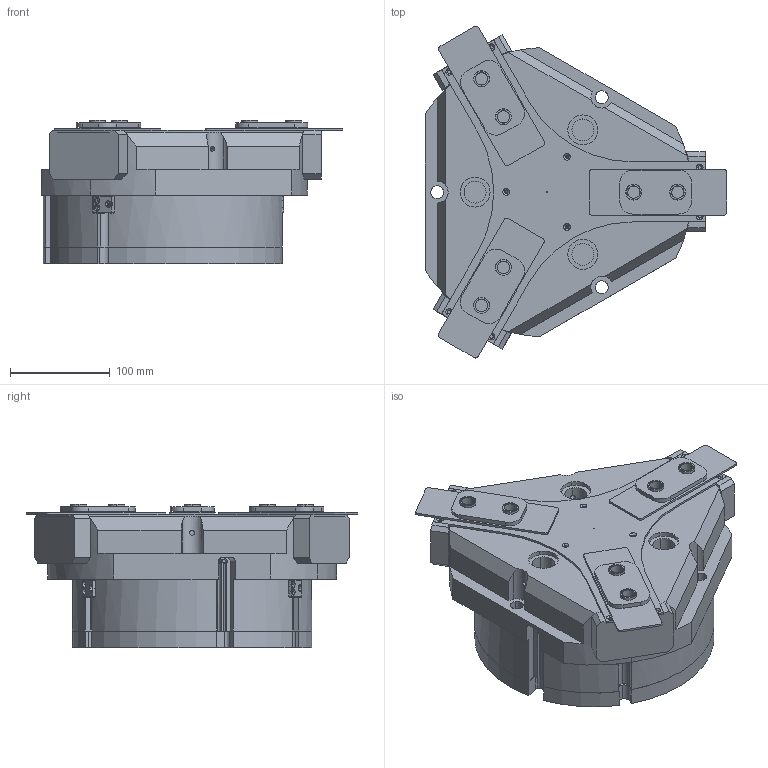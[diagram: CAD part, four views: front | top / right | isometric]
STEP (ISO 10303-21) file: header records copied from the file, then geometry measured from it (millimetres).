
FILE_DESCRIPTION (( 'STEP AP214' ), '1' );
FILE_NAME ('FCT 240A-1-SD.STEP', '2021-09-17T10:18:03', ( 'DEEP' ), ( 'Microsoft' ), 'SwSTEP 2.0', 'SolidWorks 2016', '' );
FILE_SCHEMA (( 'AUTOMOTIVE_DESIGN' ));
Length unit declared in the file: millimetre
Products named in the file (37): 8瘍隅弇杶-SDA; FCT 240A-1 - SD-004A; FCT 240A-1 - SD-003A; FPT-000-1-01-003A; FCT240A-1-01-007A; FCT240A-1-01-008A; FCT 240A-1 - SDA; FCT 240A-1 - SD-002A; FCT 240A-1 - SD-001A; FCT240A-1-01-002A; FCT240A-1-01-001A; FCT 240A-1-SD
Assembly tree (26 placements, depth 3):
  FCT 240A-1 - SD-004A
  FCT 240A-1 - SD-003A
  FCT 240A-1 - SD-003A
  FCT 240A-1 - SD-004A
  FCT 240A-1 - SD-003A
Bounding box: 301.92 x 332.78 x 144.3 mm (x, y, z)
Volume: 6557890.1 mm3; surface area: 629753.8 mm2
Topology: 25 solids, 25 shells, 1081 faces, 2852 edges, 1839 vertices
Faces by surface type: plane 548, cylinder 423, cone 108, torus 2
Entity records: 25565 total; most frequent: CARTESIAN_POINT 5481, ORIENTED_EDGE 3904, DIRECTION 3898, EDGE_CURVE 1952, AXIS2_PLACEMENT_3D 1340, VERTEX_POINT 1283, VECTOR 1218, LINE 1218
